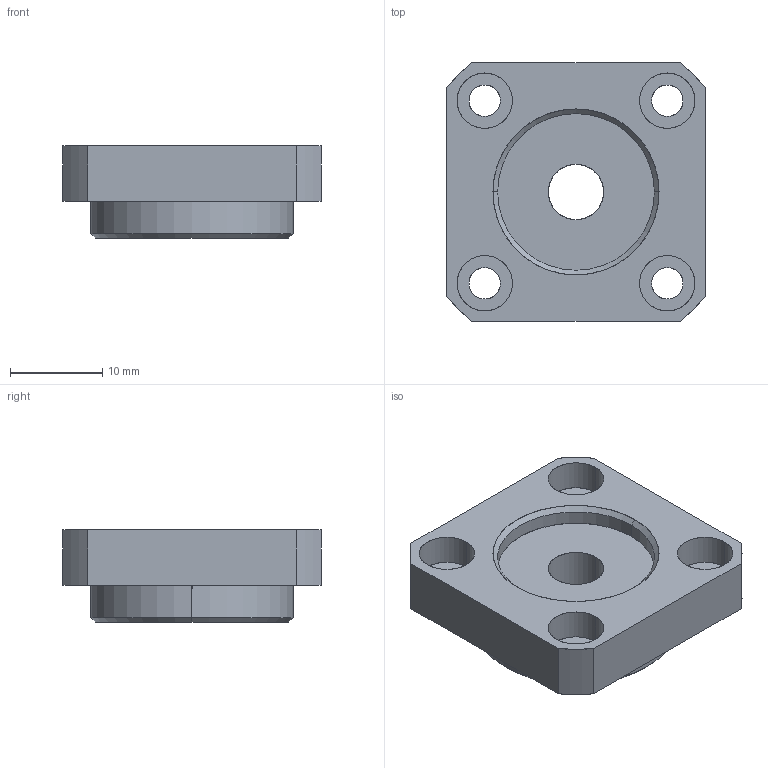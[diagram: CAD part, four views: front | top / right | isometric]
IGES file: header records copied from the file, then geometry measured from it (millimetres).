
Start section: SolidWorks IGES file using analytic representation for surfaces
Global section: file name: E:\同创达图纸\产品示意图\3D选型图\支撑座\FF系列\FF06.IGS; native system: SolidWorks 2012; preprocessor: SolidWorks 2012; author: gao; date: 130702.203511; units: millimetre
Bounding box: 28 x 28 x 10 mm (x, y, z)
Surface area: 2962.5 mm2 (no closed solid volume)
Topology: 0 solids, 0 shells, 47 faces, 944 edges, 944 vertices
Faces by surface type: revolution 34, bspline 13
